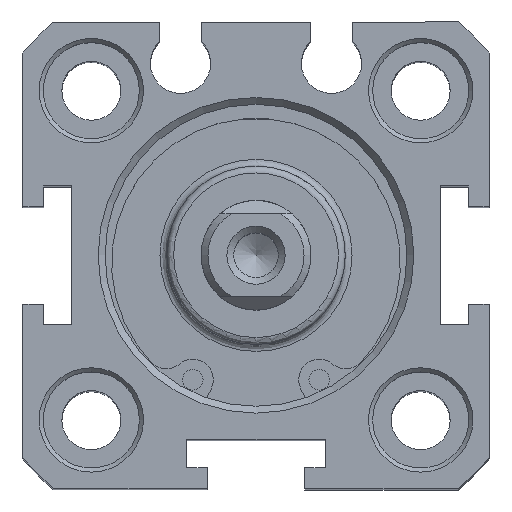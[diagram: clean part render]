
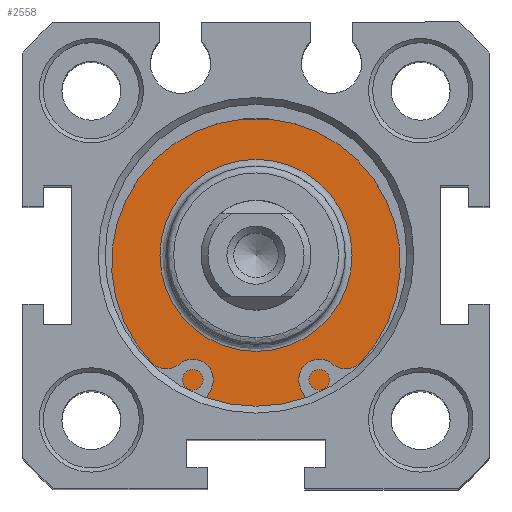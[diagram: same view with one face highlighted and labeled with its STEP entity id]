
A CAD part, top view. The second image highlights one B-rep face of the part: STEP entity #2558.
In plain terms, the highlighted planar face has unit normal (0, 0, 1).
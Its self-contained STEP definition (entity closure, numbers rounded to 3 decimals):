
#2507=CARTESIAN_POINT('',(0.24,8.683,56.8));
#2508=VERTEX_POINT('',#2507);
#2509=CARTESIAN_POINT('',(0.24,1.683,56.8));
#2510=DIRECTION('',(0.0,0.0,1.0));
#2511=DIRECTION('',(0.0,-1.0,0.0));
#2512=AXIS2_PLACEMENT_3D('',#2509,#2510,#2511);
#2513=CIRCLE('',#2512,7.);
#2514=EDGE_CURVE('',#2508,#2508,#2513,.T.);
#2539=CARTESIAN_POINT('',(0.24,10.433,56.8));
#2540=DIRECTION('',(0.0,0.0,1.0));
#2541=DIRECTION('',(1.0,0.0,0.0));
#2542=AXIS2_PLACEMENT_3D('',#2539,#2540,#2541);
#2543=PLANE('',#2542);
#2544=CARTESIAN_POINT('',(0.24,12.683,56.8));
#2545=VERTEX_POINT('',#2544);
#2546=CARTESIAN_POINT('',(0.24,1.683,56.8));
#2547=DIRECTION('',(0.0,0.0,-1.0));
#2548=DIRECTION('',(0.0,1.0,0.0));
#2549=AXIS2_PLACEMENT_3D('',#2546,#2547,#2548);
#2550=CIRCLE('',#2549,11.);
#2551=EDGE_CURVE('',#2545,#2545,#2550,.T.);
#2552=ORIENTED_EDGE('',*,*,#2551,.F.);
#2553=EDGE_LOOP('',(#2552));
#2554=FACE_OUTER_BOUND('',#2553,.T.);
#2555=ORIENTED_EDGE('',*,*,#2514,.F.);
#2556=EDGE_LOOP('',(#2555));
#2557=FACE_BOUND('',#2556,.T.);
#2558=ADVANCED_FACE('',(#2554,#2557),#2543,.T.);
